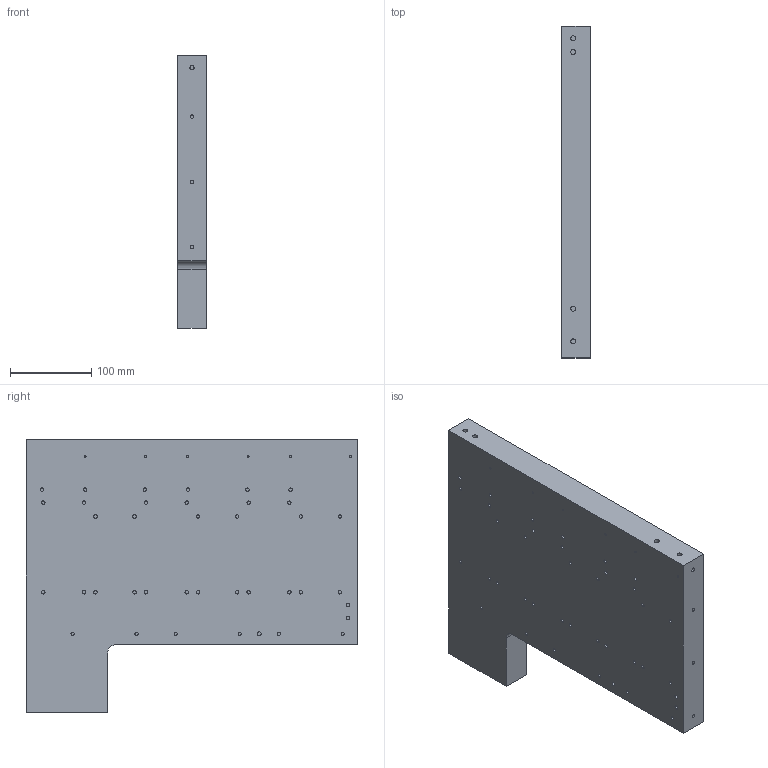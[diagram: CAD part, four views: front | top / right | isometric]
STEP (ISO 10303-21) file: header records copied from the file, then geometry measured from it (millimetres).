
FILE_DESCRIPTION((''),'2;1');
FILE_NAME('0810_ASM','2026-08-10T20:03:25',('q19439'),('Nokia Networks'),'CREO PARAMETRIC BY PTC INC, 2025443','CREO PARAMETRIC BY PTC INC, 2025443','');
FILE_SCHEMA(('CONFIG_CONTROL_DESIGN'));
Length unit declared in the file: millimetre
Products named in the file (2): COLD-PLATE; 0810_ASM
Assembly tree (1 placements, depth 2):
  0810_ASM
    COLD-PLATE
Bounding box: 35 x 407 x 335 mm (x, y, z)
Volume: 3580530.7 mm3; surface area: 540655.9 mm2
Topology: 1 solids, 1 shells, 570 faces, 1406 edges, 940 vertices
Faces by surface type: plane 325, cylinder 241, cone 4
Entity records: 17295 total; most frequent: DIRECTION 3070, CARTESIAN_POINT 2919, ORIENTED_EDGE 2812, EDGE_CURVE 1406, AXIS2_PLACEMENT_3D 1091, VERTEX_POINT 940, VECTOR 888, LINE 888
